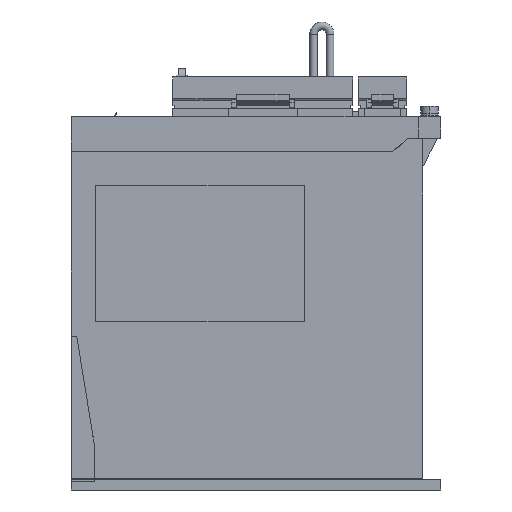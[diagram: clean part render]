
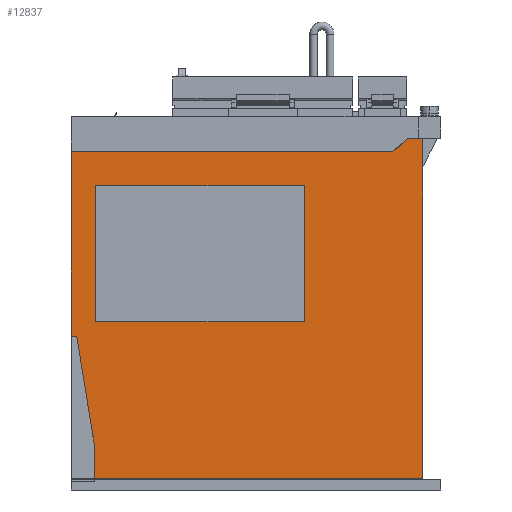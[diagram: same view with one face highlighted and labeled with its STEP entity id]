
A CAD part, left-side view. The second image highlights one B-rep face of the part: STEP entity #12837.
In plain terms, the highlighted planar face has unit normal (-1, 0, 0).
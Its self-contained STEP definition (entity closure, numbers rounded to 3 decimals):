
#12818 = ORIENTED_EDGE ( 'NONE', *, *, #12820, .F. ) ;
#12820 = EDGE_CURVE ( 'NONE', #12935, #12898, #40718, .T. ) ;
#12837 = ADVANCED_FACE ( 'NONE', ( #40744, #40743 ), #40742, .F. ) ;
#12839 = EDGE_LOOP ( 'NONE', ( #12842, #12850, #12882, #12887 ) ) ;
#12842 = ORIENTED_EDGE ( 'NONE', *, *, #12843, .F. ) ;
#12843 = EDGE_CURVE ( 'NONE', #12845, #12846, #40798, .T. ) ;
#12845 = VERTEX_POINT ( 'NONE', #40794 ) ;
#12846 = VERTEX_POINT ( 'NONE', #40793 ) ;
#12850 = ORIENTED_EDGE ( 'NONE', *, *, #12878, .F. ) ;
#12858 = ORIENTED_EDGE ( 'NONE', *, *, #12860, .T. ) ;
#12860 = EDGE_CURVE ( 'NONE', #14800, #14093, #40834, .T. ) ;
#12863 = ORIENTED_EDGE ( 'NONE', *, *, #14092, .F. ) ;
#12865 = ORIENTED_EDGE ( 'NONE', *, *, #12867, .T. ) ;
#12867 = EDGE_CURVE ( 'NONE', #14087, #12869, #40820, .T. ) ;
#12869 = VERTEX_POINT ( 'NONE', #40810 ) ;
#12871 = ORIENTED_EDGE ( 'NONE', *, *, #12873, .T. ) ;
#12873 = EDGE_CURVE ( 'NONE', #12869, #13812, #40809, .T. ) ;
#12878 = EDGE_CURVE ( 'NONE', #12879, #12845, #40859, .T. ) ;
#12879 = VERTEX_POINT ( 'NONE', #40855 ) ;
#12882 = ORIENTED_EDGE ( 'NONE', *, *, #12883, .F. ) ;
#12883 = EDGE_CURVE ( 'NONE', #12884, #12879, #40844, .T. ) ;
#12884 = VERTEX_POINT ( 'NONE', #40840 ) ;
#12887 = ORIENTED_EDGE ( 'NONE', *, *, #12889, .F. ) ;
#12889 = EDGE_CURVE ( 'NONE', #12846, #12884, #40897, .T. ) ;
#12890 = EDGE_LOOP ( 'NONE', ( #12892, #12896, #12818, #12937, #12941, #12858, #12863, #12865, #12871 ) ) ;
#12892 = ORIENTED_EDGE ( 'NONE', *, *, #13679, .F. ) ;
#12896 = ORIENTED_EDGE ( 'NONE', *, *, #12897, .F. ) ;
#12897 = EDGE_CURVE ( 'NONE', #12898, #13768, #40888, .T. ) ;
#12898 = VERTEX_POINT ( 'NONE', #40884 ) ;
#12935 = VERTEX_POINT ( 'NONE', #40959 ) ;
#12937 = ORIENTED_EDGE ( 'NONE', *, *, #12939, .F. ) ;
#12939 = EDGE_CURVE ( 'NONE', #14694, #12935, #40953, .T. ) ;
#12941 = ORIENTED_EDGE ( 'NONE', *, *, #14804, .T. ) ;
#13679 = EDGE_CURVE ( 'NONE', #13768, #13812, #42125, .T. ) ;
#13768 = VERTEX_POINT ( 'NONE', #42243 ) ;
#13812 = VERTEX_POINT ( 'NONE', #42364 ) ;
#14087 = VERTEX_POINT ( 'NONE', #42787 ) ;
#14092 = EDGE_CURVE ( 'NONE', #14087, #14093, #42780, .T. ) ;
#14093 = VERTEX_POINT ( 'NONE', #42776 ) ;
#14694 = VERTEX_POINT ( 'NONE', #43736 ) ;
#14800 = VERTEX_POINT ( 'NONE', #43904 ) ;
#14804 = EDGE_CURVE ( 'NONE', #14694, #14800, #43903, .T. ) ;
#40487 = DIRECTION ( 'NONE',  ( 0., 1., 0. ) ) ;
#40488 = DIRECTION ( 'NONE',  ( 1., 0., 0. ) ) ;
#40493 = CARTESIAN_POINT ( 'NONE',  ( -5., 5., 320.208 ) ) ;
#40711 = DIRECTION ( 'NONE',  ( 0., -0.755, 0.656 ) ) ;
#40712 = VECTOR ( 'NONE', #40711, 1000. ) ;
#40713 = CARTESIAN_POINT ( 'NONE',  ( -5., -141.328, 154. ) ) ;
#40718 = LINE ( 'NONE', #40713, #40712 ) ;
#40741 = AXIS2_PLACEMENT_3D ( 'NONE', #40493, #40488, #40487 ) ;
#40742 = PLANE ( 'NONE',  #40741 ) ;
#40743 = FACE_OUTER_BOUND ( 'NONE', #12890, .T. ) ;
#40744 = FACE_BOUND ( 'NONE', #12839, .T. ) ;
#40793 = CARTESIAN_POINT ( 'NONE',  ( -5., -101., 76.5 ) ) ;
#40794 = CARTESIAN_POINT ( 'NONE',  ( -5., -6., 76.5 ) ) ;
#40795 = DIRECTION ( 'NONE',  ( 0., -1., 0. ) ) ;
#40796 = VECTOR ( 'NONE', #40795, 1000. ) ;
#40797 = CARTESIAN_POINT ( 'NONE',  ( -5., -6., 76.5 ) ) ;
#40798 = LINE ( 'NONE', #40797, #40796 ) ;
#40806 = DIRECTION ( 'NONE',  ( 0., -1., 0. ) ) ;
#40807 = VECTOR ( 'NONE', #40806, 1000. ) ;
#40808 = CARTESIAN_POINT ( 'NONE',  ( -5., -5.5, 5.2 ) ) ;
#40809 = LINE ( 'NONE', #40808, #40807 ) ;
#40810 = CARTESIAN_POINT ( 'NONE',  ( -5., -5.5, 5.2 ) ) ;
#40817 = DIRECTION ( 'NONE',  ( 0., 0., -1. ) ) ;
#40818 = VECTOR ( 'NONE', #40817, 1000. ) ;
#40819 = CARTESIAN_POINT ( 'NONE',  ( -5., -5.5, 20. ) ) ;
#40820 = LINE ( 'NONE', #40819, #40818 ) ;
#40831 = DIRECTION ( 'NONE',  ( 0., -1., 0. ) ) ;
#40832 = VECTOR ( 'NONE', #40831, 1000. ) ;
#40833 = CARTESIAN_POINT ( 'NONE',  ( -5., 5., 70. ) ) ;
#40834 = LINE ( 'NONE', #40833, #40832 ) ;
#40840 = CARTESIAN_POINT ( 'NONE',  ( -5., -101., 138.5 ) ) ;
#40841 = DIRECTION ( 'NONE',  ( 0., 1., 0. ) ) ;
#40842 = VECTOR ( 'NONE', #40841, 1000. ) ;
#40843 = CARTESIAN_POINT ( 'NONE',  ( -5., -6., 138.5 ) ) ;
#40844 = LINE ( 'NONE', #40843, #40842 ) ;
#40855 = CARTESIAN_POINT ( 'NONE',  ( -5., -6., 138.5 ) ) ;
#40856 = DIRECTION ( 'NONE',  ( 0., 0., -1. ) ) ;
#40857 = VECTOR ( 'NONE', #40856, 1000. ) ;
#40858 = CARTESIAN_POINT ( 'NONE',  ( -5., -6., 76.5 ) ) ;
#40859 = LINE ( 'NONE', #40858, #40857 ) ;
#40884 = CARTESIAN_POINT ( 'NONE',  ( -5., -148., 159.8 ) ) ;
#40885 = DIRECTION ( 'NONE',  ( 0., -1., 0. ) ) ;
#40886 = VECTOR ( 'NONE', #40885, 1000. ) ;
#40887 = CARTESIAN_POINT ( 'NONE',  ( -5., -153., 159.8 ) ) ;
#40888 = LINE ( 'NONE', #40887, #40886 ) ;
#40894 = DIRECTION ( 'NONE',  ( 0., 0., 1. ) ) ;
#40895 = VECTOR ( 'NONE', #40894, 1000. ) ;
#40896 = CARTESIAN_POINT ( 'NONE',  ( -5., -101., 76.5 ) ) ;
#40897 = LINE ( 'NONE', #40896, #40895 ) ;
#40950 = DIRECTION ( 'NONE',  ( 0., -1., 0. ) ) ;
#40951 = VECTOR ( 'NONE', #40950, 1000. ) ;
#40952 = CARTESIAN_POINT ( 'NONE',  ( -5., 13.365, 154. ) ) ;
#40953 = LINE ( 'NONE', #40952, #40951 ) ;
#40959 = CARTESIAN_POINT ( 'NONE',  ( -5., -141.328, 154. ) ) ;
#42122 = DIRECTION ( 'NONE',  ( 0., 0., -1. ) ) ;
#42123 = VECTOR ( 'NONE', #42122, 1000. ) ;
#42124 = CARTESIAN_POINT ( 'NONE',  ( -5., -155., 320.208 ) ) ;
#42125 = LINE ( 'NONE', #42124, #42123 ) ;
#42243 = CARTESIAN_POINT ( 'NONE',  ( -5., -155., 159.8 ) ) ;
#42364 = CARTESIAN_POINT ( 'NONE',  ( -5., -155., 5.2 ) ) ;
#42776 = CARTESIAN_POINT ( 'NONE',  ( -5., 2.577, 70. ) ) ;
#42777 = DIRECTION ( 'NONE',  ( 0., 0.159, 0.987 ) ) ;
#42778 = VECTOR ( 'NONE', #42777, 1000. ) ;
#42779 = CARTESIAN_POINT ( 'NONE',  ( -5., -5.5, 20. ) ) ;
#42780 = LINE ( 'NONE', #42779, #42778 ) ;
#42787 = CARTESIAN_POINT ( 'NONE',  ( -5., -5.5, 20. ) ) ;
#43736 = CARTESIAN_POINT ( 'NONE',  ( -5., 5., 154. ) ) ;
#43900 = DIRECTION ( 'NONE',  ( 0., 0., -1. ) ) ;
#43901 = VECTOR ( 'NONE', #43900, 1000. ) ;
#43902 = CARTESIAN_POINT ( 'NONE',  ( -5., 5., 320.208 ) ) ;
#43903 = LINE ( 'NONE', #43902, #43901 ) ;
#43904 = CARTESIAN_POINT ( 'NONE',  ( -5., 5., 70. ) ) ;
